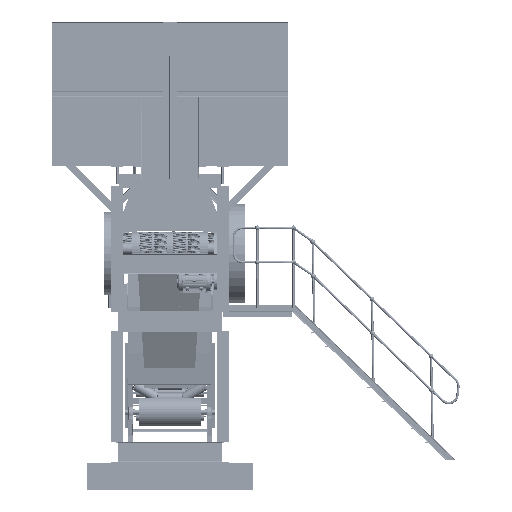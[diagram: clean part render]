
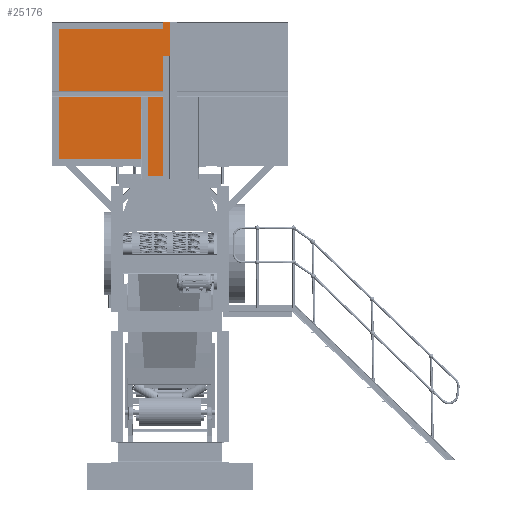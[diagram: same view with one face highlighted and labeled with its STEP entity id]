
A CAD part, front view. The second image highlights one B-rep face of the part: STEP entity #25176.
In plain terms, the highlighted planar face has unit normal (0, -1, 0) as drawn and (0, 0, 1) by its records, which use the part's own axes.
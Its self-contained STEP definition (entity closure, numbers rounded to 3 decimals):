
#14473=PLANE('',#160467);
#25176=ADVANCED_FACE('',(#34690),#14473,.F.);
#34690=FACE_OUTER_BOUND('',#43044,.T.);
#43044=EDGE_LOOP('',(#90207,#90208,#90209,#90210,#90211,#90212));
#53268=LINE('',#278589,#64797);
#53274=LINE('',#278602,#64803);
#53275=LINE('',#278604,#64804);
#53276=LINE('',#278606,#64805);
#53277=LINE('',#278608,#64806);
#53278=LINE('',#278610,#64807);
#64797=VECTOR('',#184444,1.);
#64803=VECTOR('',#184452,1.);
#64804=VECTOR('',#184455,1.);
#64805=VECTOR('',#184456,1.);
#64806=VECTOR('',#184457,1.);
#64807=VECTOR('',#184458,1.);
#90207=ORIENTED_EDGE('',*,*,#138199,.F.);
#90208=ORIENTED_EDGE('',*,*,#138192,.T.);
#90209=ORIENTED_EDGE('',*,*,#138198,.T.);
#90210=ORIENTED_EDGE('',*,*,#138200,.F.);
#90211=ORIENTED_EDGE('',*,*,#138201,.F.);
#90212=ORIENTED_EDGE('',*,*,#138202,.F.);
#120546=VERTEX_POINT('',#278590);
#120547=VERTEX_POINT('',#278591);
#120551=VERTEX_POINT('',#278601);
#120552=VERTEX_POINT('',#278605);
#120553=VERTEX_POINT('',#278607);
#120554=VERTEX_POINT('',#278609);
#138192=EDGE_CURVE('',#120546,#120547,#53268,.T.);
#138198=EDGE_CURVE('',#120547,#120551,#53274,.T.);
#138199=EDGE_CURVE('',#120546,#120552,#53275,.T.);
#138200=EDGE_CURVE('',#120553,#120551,#53276,.T.);
#138201=EDGE_CURVE('',#120554,#120553,#53277,.T.);
#138202=EDGE_CURVE('',#120552,#120554,#53278,.T.);
#160467=AXIS2_PLACEMENT_3D('',#278611,#184459,#184460);
#184444=DIRECTION('',(0.,-1.,0.));
#184452=DIRECTION('',(1.,0.,0.));
#184455=DIRECTION('',(1.,0.,0.));
#184456=DIRECTION('',(0.,1.,0.));
#184457=DIRECTION('',(-1.,0.,0.));
#184458=DIRECTION('',(0.,-1.,0.));
#184459=DIRECTION('',(0.,0.,-1.));
#184460=DIRECTION('',(1.,0.,0.));
#278589=CARTESIAN_POINT('',(-1615.,500.,2450.));
#278590=CARTESIAN_POINT('',(-1615.,1500.,2450.));
#278591=CARTESIAN_POINT('',(-1615.,-500.,2450.));
#278601=CARTESIAN_POINT('',(-425.,-500.,2450.));
#278602=CARTESIAN_POINT('',(-1615.,-500.,2450.));
#278604=CARTESIAN_POINT('',(-1615.,1500.,2450.));
#278605=CARTESIAN_POINT('',(0.,1500.,2450.));
#278606=CARTESIAN_POINT('',(-425.,500.,2450.));
#278607=CARTESIAN_POINT('',(-425.,-850.,2450.));
#278608=CARTESIAN_POINT('',(-1615.,-850.,2450.));
#278609=CARTESIAN_POINT('',(0.,-850.,2450.));
#278610=CARTESIAN_POINT('',(0.,500.,2450.));
#278611=CARTESIAN_POINT('',(-1615.,500.,2450.));
